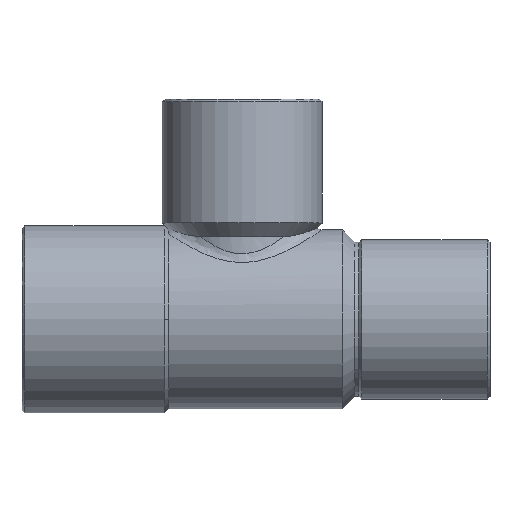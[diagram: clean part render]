
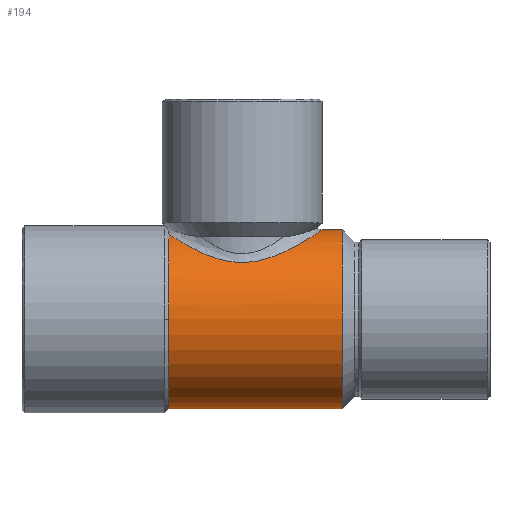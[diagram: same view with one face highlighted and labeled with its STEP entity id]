
A CAD part, top view. The second image highlights one B-rep face of the part: STEP entity #194.
In plain terms, the highlighted cylindrical face has radius 6.5 mm (diameter 13 mm), a partial arc.
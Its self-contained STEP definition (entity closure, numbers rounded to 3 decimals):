
#124=CARTESIAN_POINT('',(1.,0.,0.0));
#125=DIRECTION('',(1.0,0.,0.0));
#126=DIRECTION('',(0.0,1.0,0.0));
#127=AXIS2_PLACEMENT_3D('',#124,#125,#126);
#128=CYLINDRICAL_SURFACE('',#127,6.5);
#129=CARTESIAN_POINT('',(5.8,6.5,0.));
#130=VERTEX_POINT('',#129);
#131=CARTESIAN_POINT('',(7.27,6.5,0.0));
#132=VERTEX_POINT('',#131);
#133=CARTESIAN_POINT('',(5.8,6.5,0.));
#134=DIRECTION('',(1.0,0.0,0.0));
#135=VECTOR('',#134,1.47);
#136=LINE('',#133,#135);
#137=EDGE_CURVE('',#130,#132,#136,.T.);
#138=ORIENTED_EDGE('',*,*,#137,.F.);
#139=CARTESIAN_POINT('',(-5.35,6.203,1.941));
#140=VERTEX_POINT('',#139);
#141=CARTESIAN_POINT('',(-5.352,6.201,1.932));
#142=CARTESIAN_POINT('',(-5.001,5.972,2.659));
#143=CARTESIAN_POINT('',(-4.464,5.635,3.295));
#144=CARTESIAN_POINT('',(-3.016,4.85,4.391));
#145=CARTESIAN_POINT('',(-2.033,4.376,4.812));
#146=CARTESIAN_POINT('',(0.062,4.039,5.096));
#147=CARTESIAN_POINT('',(1.091,4.169,5.003));
#148=CARTESIAN_POINT('',(2.845,4.751,4.454));
#149=CARTESIAN_POINT('',(3.601,5.154,4.017));
#150=CARTESIAN_POINT('',(5.167,6.054,2.58));
#151=CARTESIAN_POINT('',(5.8,6.5,1.309));
#152=CARTESIAN_POINT('',(5.8,6.5,0.));
#153=B_SPLINE_CURVE_WITH_KNOTS('',3,(#141,#142,#143,#144,#145,#146,#147,#148,#149,#150,#151,#152),.UNSPECIFIED.,.F.,.U.,(4,2,2,2,2,4),(0.763,0.99,1.269,1.505,1.741,2.105),.UNSPECIFIED.);
#154=CARTESIAN_POINT('',(-5.349,6.199,1.939));
#155=CARTESIAN_POINT('',(5.8,6.5,0.));
#156=TRIMMED_CURVE('',#153,(PARAMETER_VALUE(0.764),#154),(PARAMETER_VALUE(2.105),#155),.T.,.PARAMETER.);
#157=EDGE_CURVE('',#140,#130,#156,.T.);
#158=ORIENTED_EDGE('',*,*,#157,.F.);
#159=CARTESIAN_POINT('',(-5.35,0.,6.5));
#160=VERTEX_POINT('',#159);
#161=CARTESIAN_POINT('',(-5.35,0.,0.0));
#162=DIRECTION('',(1.0,0.0,0.0));
#163=DIRECTION('',(0.0,1.0,0.0));
#164=AXIS2_PLACEMENT_3D('',#161,#162,#163);
#165=CIRCLE('',#164,6.5);
#166=EDGE_CURVE('',#140,#160,#165,.T.);
#167=ORIENTED_EDGE('',*,*,#166,.T.);
#168=CARTESIAN_POINT('',(-5.35,-6.5,0.));
#169=VERTEX_POINT('',#168);
#170=CARTESIAN_POINT('',(-5.35,0.,0.0));
#171=DIRECTION('',(1.0,0.0,0.0));
#172=DIRECTION('',(0.0,1.0,0.0));
#173=AXIS2_PLACEMENT_3D('',#170,#171,#172);
#174=CIRCLE('',#173,6.5);
#175=EDGE_CURVE('',#160,#169,#174,.T.);
#176=ORIENTED_EDGE('',*,*,#175,.T.);
#177=CARTESIAN_POINT('',(7.27,-6.5,0.));
#178=VERTEX_POINT('',#177);
#179=CARTESIAN_POINT('',(7.27,-6.5,0.));
#180=DIRECTION('',(-1.0,0.0,0.0));
#181=VECTOR('',#180,12.62);
#182=LINE('',#179,#181);
#183=EDGE_CURVE('',#178,#169,#182,.T.);
#184=ORIENTED_EDGE('',*,*,#183,.F.);
#185=CARTESIAN_POINT('',(7.27,0.,0.0));
#186=DIRECTION('',(-1.0,0.0,0.0));
#187=DIRECTION('',(0.0,1.0,0.0));
#188=AXIS2_PLACEMENT_3D('',#185,#186,#187);
#189=CIRCLE('',#188,6.5);
#190=EDGE_CURVE('',#178,#132,#189,.T.);
#191=ORIENTED_EDGE('',*,*,#190,.T.);
#192=EDGE_LOOP('',(#138,#158,#167,#176,#184,#191));
#193=FACE_OUTER_BOUND('',#192,.T.);
#194=ADVANCED_FACE('',(#193),#128,.T.);
